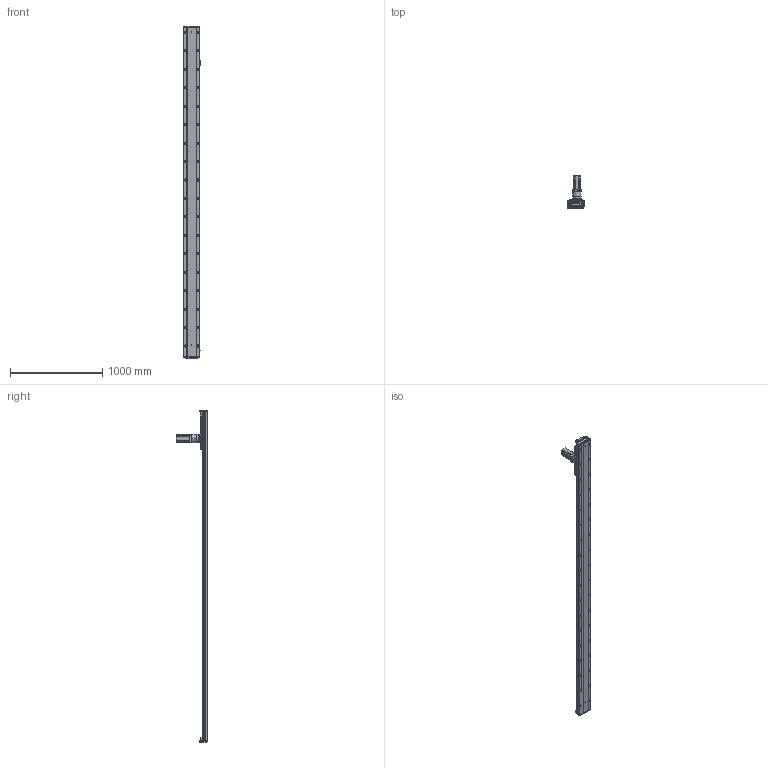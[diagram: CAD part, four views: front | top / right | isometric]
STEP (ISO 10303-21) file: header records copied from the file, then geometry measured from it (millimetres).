
FILE_DESCRIPTION (( 'STEP AP203' ), '1' );
FILE_NAME ('RY170-C-1000-UK.SLDASM_3100.step', '2021-03-03T00:48:25', ( '盈信电脑' ), ( '东莞市道滘镇水果街19号' ), 'SwSTEP 2.0', 'SolidWorks 2012', '' );
FILE_SCHEMA (( 'CONFIG_CONTROL_DESIGN' ));
Products named in the file (13): RY170-C-1000-UK.SLDASM_3100; 左旋斜齿齿轮_M2_22齿_内孔20; RY170-喘沭賑輸; TF080等撰; RY170外置感应片(200共用）; RY170-喘沭滅袉蝶輸; 怢湛750W萇儂ㄗ80遺ㄘ; RY170-喘謫萇儂覃誹啣; RY170-1000-喘沭耀郪絳寢EGH20CA_3100; RY170綴裔啣ㄗ蜊秶ㄘ; 覜茼ん672; 絳寢賑輸EGH20CA; RY170-1000齿条模组型材底座_3100
Assembly tree (22 placements, depth 2):
  RY170-C-1000-UK.SLDASM_3100
    RY170-1000齿条模组型材底座_3100
    絳寢賑輸EGH20CA  x6
    RY170-1000-喘沭耀郪絳寢EGH20CA_3100  x2
    RY170綴裔啣ㄗ蜊秶ㄘ  x2
    覜茼ん672  x3
    RY170外置感应片(200共用）
    RY170-喘謫萇儂覃誹啣
    怢湛750W萇儂ㄗ80遺ㄘ
    RY170-喘沭滅袉蝶輸  x2
    TF080等撰
    左旋斜齿齿轮_M2_22齿_内孔20
    RY170-喘沭賑輸
Bounding box: 188.7 x 343.5 x 3600 mm (x, y, z)
Volume: 17912531.4 mm3; surface area: 4633818.4 mm2
Topology: 24 solids, 24 shells, 4937 faces, 14030 edges, 8937 vertices
Faces by surface type: plane 2295, cylinder 2170, cone 418, bspline 50, torus 4
Entity records: 114834 total; most frequent: CARTESIAN_POINT 28067, ORIENTED_EDGE 18262, DIRECTION 17542, EDGE_CURVE 9131, AXIS2_PLACEMENT_3D 6547, VERTEX_POINT 5935, VECTOR 4448, LINE 4448
